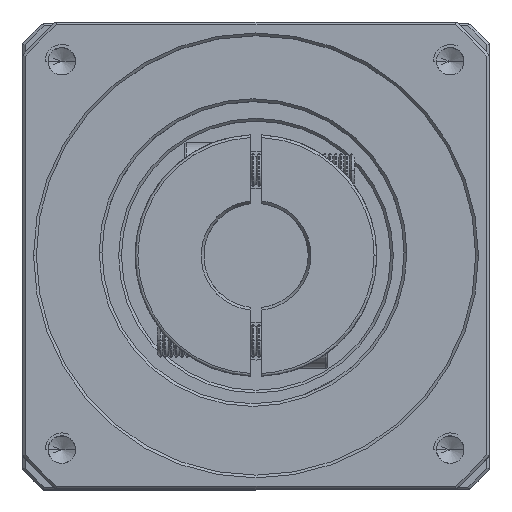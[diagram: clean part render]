
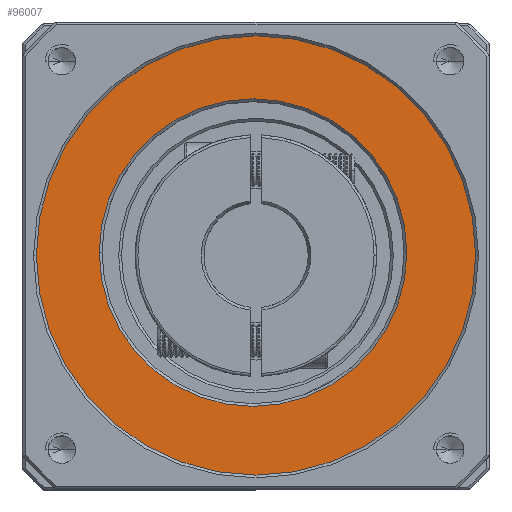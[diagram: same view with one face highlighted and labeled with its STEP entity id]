
A CAD part, top view. The second image highlights one B-rep face of the part: STEP entity #96007.
In plain terms, the highlighted planar face has unit normal (0, 0, 1).
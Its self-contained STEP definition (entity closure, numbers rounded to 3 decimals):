
#4365 = ORIENTED_EDGE ( 'NONE', *, *, #97019, .T. ) ;
#5421 = DIRECTION ( 'NONE',  ( 1., 0., 0. ) ) ;
#11970 = CARTESIAN_POINT ( 'NONE',  ( -121.806, 25.131, 19.207 ) ) ;
#16776 = DIRECTION ( 'NONE',  ( 0., 0., 1. ) ) ;
#18804 = EDGE_CURVE ( 'NONE', #79992, #84788, #52242, .T. ) ;
#21750 = DIRECTION ( 'NONE',  ( 0., 0., -1. ) ) ;
#22994 = VERTEX_POINT ( 'NONE', #107378 ) ;
#26782 = EDGE_LOOP ( 'NONE', ( #111272, #93271 ) ) ;
#37815 = VERTEX_POINT ( 'NONE', #54654 ) ;
#40610 = DIRECTION ( 'NONE',  ( 0., 0., 1. ) ) ;
#43090 = AXIS2_PLACEMENT_3D ( 'NONE', #94325, #40610, #103350 ) ;
#46191 = CARTESIAN_POINT ( 'NONE',  ( -93.264, 24.596, 19.207 ) ) ;
#46403 = CIRCLE ( 'NONE', #43090, 40. ) ;
#51313 = FACE_BOUND ( 'NONE', #26782, .T. ) ;
#52242 = CIRCLE ( 'NONE', #90285, 28. ) ;
#54654 = CARTESIAN_POINT ( 'NONE',  ( -133.264, 24.596, 19.207 ) ) ;
#55090 = CARTESIAN_POINT ( 'NONE',  ( -65.806, 25.131, 19.207 ) ) ;
#55183 = DIRECTION ( 'NONE',  ( 1., 0., 0. ) ) ;
#56660 = AXIS2_PLACEMENT_3D ( 'NONE', #46191, #108933, #55183 ) ;
#59044 = DIRECTION ( 'NONE',  ( 0., 0., -1. ) ) ;
#62193 = EDGE_CURVE ( 'NONE', #22994, #37815, #46403, .T. ) ;
#70365 = CARTESIAN_POINT ( 'NONE',  ( -93.264, 24.596, 19.207 ) ) ;
#75381 = CARTESIAN_POINT ( 'NONE',  ( -93.806, 25.131, 19.207 ) ) ;
#77965 = FACE_OUTER_BOUND ( 'NONE', #84931, .T. ) ;
#79003 = PLANE ( 'NONE',  #112210 ) ;
#79403 = DIRECTION ( 'NONE',  ( 1., 0., 0. ) ) ;
#79992 = VERTEX_POINT ( 'NONE', #55090 ) ;
#80845 = CIRCLE ( 'NONE', #56660, 40. ) ;
#84263 = EDGE_CURVE ( 'NONE', #84788, #79992, #116107, .T. ) ;
#84373 = DIRECTION ( 'NONE',  ( 1., 0., 0. ) ) ;
#84788 = VERTEX_POINT ( 'NONE', #11970 ) ;
#84931 = EDGE_LOOP ( 'NONE', ( #96797, #4365 ) ) ;
#90285 = AXIS2_PLACEMENT_3D ( 'NONE', #75381, #21750, #84373 ) ;
#93271 = ORIENTED_EDGE ( 'NONE', *, *, #84263, .T. ) ;
#94325 = CARTESIAN_POINT ( 'NONE',  ( -93.264, 24.596, 19.207 ) ) ;
#96007 = ADVANCED_FACE ( 'NONE', ( #77965, #51313 ), #79003, .T. ) ;
#96797 = ORIENTED_EDGE ( 'NONE', *, *, #62193, .T. ) ;
#97019 = EDGE_CURVE ( 'NONE', #37815, #22994, #80845, .T. ) ;
#97081 = AXIS2_PLACEMENT_3D ( 'NONE', #112804, #59044, #5421 ) ;
#103350 = DIRECTION ( 'NONE',  ( 1., 0., 0. ) ) ;
#107378 = CARTESIAN_POINT ( 'NONE',  ( -53.264, 24.596, 19.207 ) ) ;
#108933 = DIRECTION ( 'NONE',  ( 0., 0., 1. ) ) ;
#111272 = ORIENTED_EDGE ( 'NONE', *, *, #18804, .T. ) ;
#112210 = AXIS2_PLACEMENT_3D ( 'NONE', #70365, #16776, #79403 ) ;
#112804 = CARTESIAN_POINT ( 'NONE',  ( -93.806, 25.131, 19.207 ) ) ;
#116107 = CIRCLE ( 'NONE', #97081, 28. ) ;
